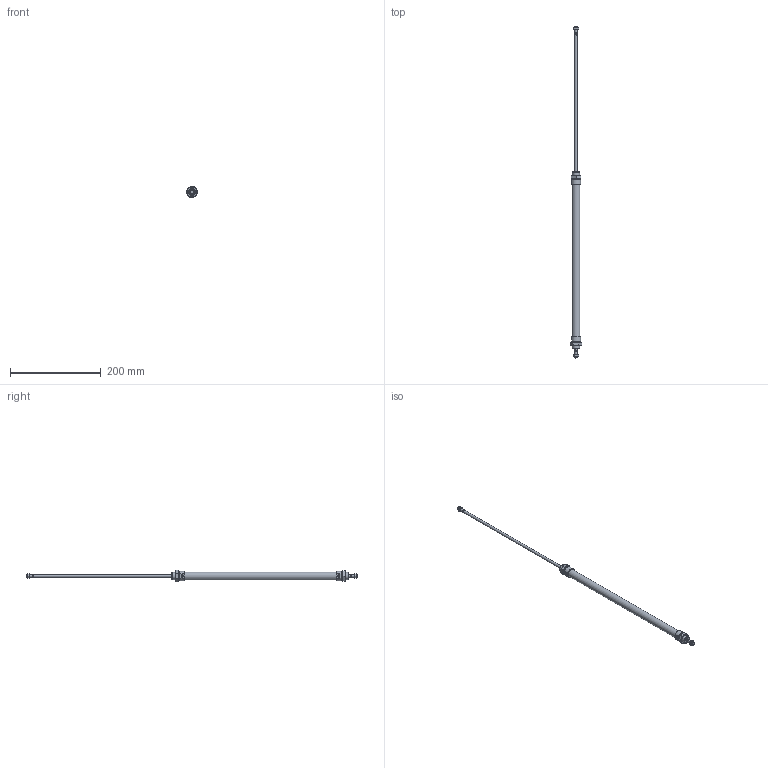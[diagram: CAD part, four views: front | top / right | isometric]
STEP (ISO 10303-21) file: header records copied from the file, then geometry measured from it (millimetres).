
FILE_DESCRIPTION((''),'2;1');
FILE_NAME('I:\Area Tecnica\Disegni\VARIE-3D\Componenti\1280\1282_##_####_#\1282_16_0300.iam.stp','2009-06-03T15:24:59',(''),(''),'Autodesk Inventor 2010','Autodesk Inventor 2010','');
FILE_SCHEMA(('AUTOMOTIVE_DESIGN { 1 0 10303 214 1 1 1 1 }'));
Length unit declared in the file: millimetre
Products named in the file (5): 1282_16_0300; C1282_16_300; S1282_16_300; 1200_16_05; 1200_16_06
Assembly tree (6 placements, depth 2):
  1282_16_0300
    C1282_16_300
    S1282_16_300
    1200_16_05  x2
    1200_16_06  x2
Bounding box: 25.4 x 732 x 25.4 mm (x, y, z)
Volume: 104719.6 mm3; surface area: 46265.9 mm2
Topology: 6 solids, 6 shells, 135 faces, 283 edges, 168 vertices
Faces by surface type: plane 56, cone 52, bspline 16, cylinder 11
Full cylindrical faces by diameter (mm): 5 x2, 6 x4, 16 x2, 17.2 x1
Entity records: 2543 total; most frequent: CARTESIAN_POINT 619, DIRECTION 358, ORIENTED_EDGE 316, AXIS2_PLACEMENT_3D 159, EDGE_CURVE 158, EDGE_LOOP 124, VERTEX_POINT 106, STYLED_ITEM 93
